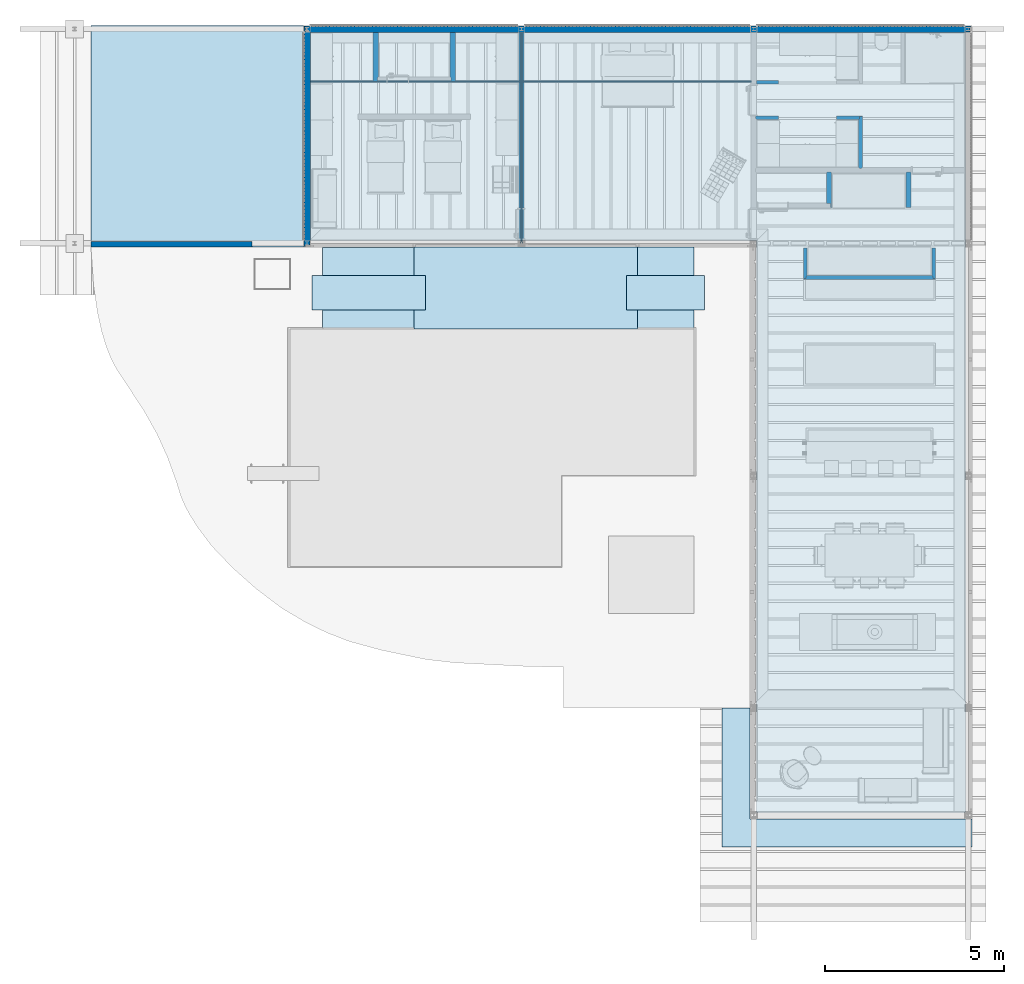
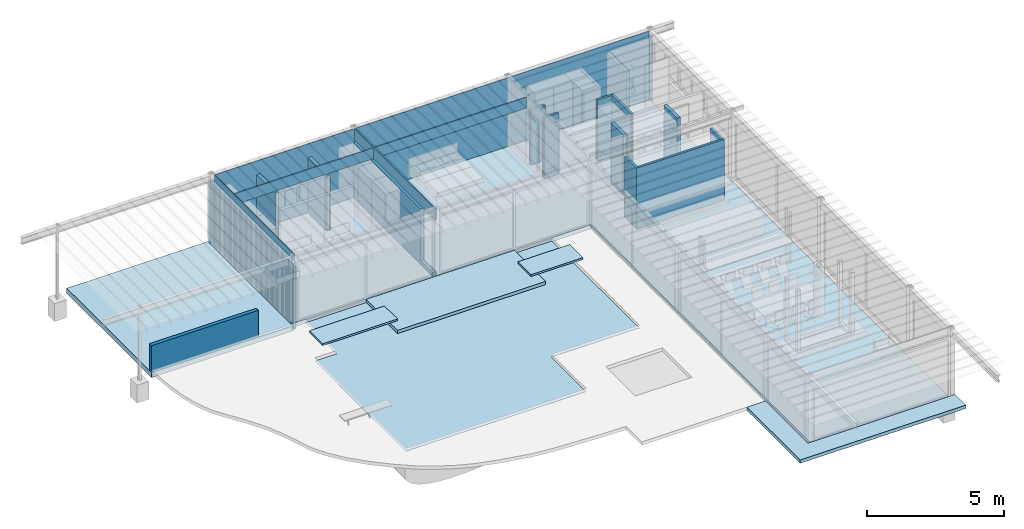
# One storey, part 13 of 28: 18 walls, 7 slabs.
"""IFC4X3_ADD2 building model written with IfcOpenShell, lengths in metres."""

from ifc_helpers import new_model, si_unit, direction, frame, frame_2d, origin_with_axes, origin_2d_with_axis, place, context, subcontext, project, spatial, polyline, rectangle, outline, extrude, source, transform, mapped, material, type_object, type_shapes, element, save


model = new_model("IFC4X3_ADD2")

# Units and contexts
model_context = context("Model", 3, precision=1e-05, world=origin_with_axes(), true_north=direction((0.0, 1.0)))
body_context = subcontext(model_context, "Body", "Model", "MODEL_VIEW")
ifc_project = project(units=[si_unit("LENGTHUNIT", "METRE"), si_unit("AREAUNIT", "SQUARE_METRE"), si_unit("VOLUMEUNIT", "CUBIC_METRE"), si_unit("PLANEANGLEUNIT", "RADIAN"), si_unit("TIMEUNIT", "SECOND"), si_unit("MASSUNIT", "GRAM")], contexts=[model_context])

# Site, building, storey
site_placement = place(None, origin_with_axes())
site = spatial("IfcSite", under=ifc_project, at=site_placement, Name="Site", CompositionType="ELEMENT")
building_placement = place(site_placement, origin_with_axes())
building = spatial("IfcBuilding", under=site, at=building_placement, Name="Default Building")
storey_placement = place(building_placement, frame((0.0, 0.0, -0.08), z_axis=(0.0, 0.0, 1.0), x_axis=(1.0, 0.0, 0.0)))
storey = spatial("IfcBuildingStorey", under=building, at=storey_placement, Name="Gruendung", Elevation=-0.08)

# Slabs
ifc_material_1 = material(Name="Default")
slab_type_1 = type_object("IfcSlabType", Name="Default 0.01", PredefinedType="FLOOR", material=ifc_material_1)
slab_1_placement = place(storey_placement, frame((6.01383100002, 6.961993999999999, -0.09999999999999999), z_axis=(0.0, 0.0, 1.0), x_axis=(1.0, 0.0, 0.0)))
element("IfcSlab", 1, at=slab_1_placement, inside=storey, type_object=slab_type_1, Name="IfcSlab", context=body_context, shape_type="SweptSolid", body=[
    extrude(outline(polyline([(-5.511271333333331, -5.615955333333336), (-5.511271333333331, 1.029901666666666), (-4.589108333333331, 1.029901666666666), (-4.589108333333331, 3.312050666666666), (-2.015102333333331, 3.312050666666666), (-2.015102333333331, 1.029901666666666), (4.224897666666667, 1.029901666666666), (4.224897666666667, 3.322050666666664), (5.799897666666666, 3.322050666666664), (5.799897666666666, -3.077949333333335), (2.09068666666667, -3.077949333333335), (2.09068666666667, -5.615955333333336), (-5.511271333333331, -5.615955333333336)])), frame((5.511271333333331, 5.615955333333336, 0.0), z_axis=(0.0, 0.0, 1.0), x_axis=(1.0, 0.0, 0.0)), (0.0, 0.0, 1.0), 0.01),
])
ifc_material_2 = material(Name="Beton")
slab_type_2 = type_object("IfcSlabType", Name="Beton 0.2", PredefinedType="FLOOR", material=ifc_material_2)
slab_2_placement = place(storey_placement, frame((6.579999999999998, 21.92, -0.28), z_axis=(0.0, 0.0, 1.0), x_axis=(0.0, -1.0, 0.0)))
element("IfcSlab", 2, at=slab_2_placement, inside=storey, type_object=slab_type_2, Name="Bodenaufbau Erdgeschoss CH 36 cm", ObjectType="Bodenaufbau Erdgeschoss CH 36 cm", PredefinedType="NOTDEFINED", context=body_context, shape_type="SweptSolid", body=[
    extrude(outline(polyline([(12.61333333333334, 8.060000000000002), (12.61333333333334, 2.220000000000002), (-3.386666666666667, 2.220000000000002), (-3.386666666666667, -10.28), (-9.226666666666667, -10.28), (-9.226666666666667, 8.060000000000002), (12.61333333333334, 8.060000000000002)])), frame((9.226666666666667, 10.28, 0.0), z_axis=(0.0, 0.0, 1.0), x_axis=(1.0, 0.0, 0.0)), (0.0, 0.0, 1.0), 0.1999999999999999),
])
ifc_material_3 = material(Name="Concrete")
slab_type_3 = type_object("IfcSlabType", Name="Slab LayerSet", PredefinedType="FLOOR", material=ifc_material_3)
slab_3_placement = place(storey_placement, frame((0.4532720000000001, 22.1, -0.28), z_axis=(0.0, 0.0, 1.0), x_axis=(0.0, -1.0, 0.0)))
element("IfcSlab", 3, at=slab_3_placement, inside=storey, type_object=slab_type_3, Name="Floor", ObjectType="Unstyled Roof Face", PredefinedType="FLOOR", context=body_context, shape_type="SweptSolid", body=[
    extrude(rectangle(XDim=6.200000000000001, YDim=5.946728, at=frame_2d((0.0, 0.0), x_axis=(-1.0, 0.0))), frame((3.100000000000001, 2.973364, 0.0), z_axis=(0.0, 0.0, 1.0), x_axis=(1.0, 0.0, 0.0)), (0.0, 0.0, 1.0), 0.23),
])
slab_type_4 = type_object("IfcSlabType", Name="Slab LayerSet_3", PredefinedType="FLOOR", material=ifc_material_3)
slab_4_placement = place(storey_placement, frame((6.645994, 14.14, 0.05), z_axis=(0.0, 0.0, 1.0), x_axis=(1.0, 0.0, 0.0)))
element("IfcSlab", 4, at=slab_4_placement, inside=storey, type_object=slab_type_4, Name="Floor", ObjectType="Unstyled Roof Face", PredefinedType="FLOOR", context=body_context, shape_type="SweptSolid", body=[
    extrude(rectangle(XDim=3.164000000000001, YDim=0.9599999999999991, at=origin_2d_with_axis()), frame((1.582000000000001, 0.4800000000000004, 0.0), z_axis=(0.0, 0.0, 1.0), x_axis=(1.0, 0.0, 0.0)), (0.0, 0.0, 1.0), 0.08),
])
slab_5_placement = place(storey_placement, frame((15.44, 14.14, 0.05), z_axis=(0.0, 0.0, 1.0), x_axis=(1.0, 0.0, 0.0)))
element("IfcSlab", 5, at=slab_5_placement, inside=storey, type_object=slab_type_4, Name="Floor", ObjectType="Unstyled Roof Face", PredefinedType="FLOOR", context=body_context, shape_type="SweptSolid", body=[
    extrude(rectangle(XDim=2.185, YDim=0.9599999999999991, at=origin_2d_with_axis()), frame((1.092499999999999, 0.4800000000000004, 0.0), z_axis=(0.0, 0.0, 1.0), x_axis=(1.0, 0.0, 0.0)), (0.0, 0.0, 1.0), 0.08),
])
slab_type_5 = type_object("IfcSlabType", Name="Slab LayerSet_2", PredefinedType="FLOOR", material=ifc_material_3)
slab_6_placement = place(storey_placement, frame((9.5, 13.607851, -0.09999999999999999), z_axis=(0.0, 0.0, 1.0), x_axis=(1.0, 0.0, 0.0)))
element("IfcSlab", 6, at=slab_6_placement, inside=storey, type_object=slab_type_5, Name="Floor", ObjectType="Unstyled Roof Face", PredefinedType="FLOOR", context=body_context, shape_type="SweptSolid", body=[
    extrude(rectangle(XDim=6.25, YDim=2.292149, at=origin_2d_with_axis()), frame((3.125, 1.146074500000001, 0.0), z_axis=(0.0, 0.0, 1.0), x_axis=(1.0, 0.0, 0.0)), (0.0, 0.0, 1.0), 0.15),
])
slab_7_placement = place(storey_placement, frame((18.1125, -0.8875000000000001, -0.09999999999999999), z_axis=(0.0, 0.0, 1.0), x_axis=(1.0, 0.0, 0.0)))
element("IfcSlab", 7, at=slab_7_placement, inside=storey, type_object=slab_type_5, Name="Floor", ObjectType="Unstyled Roof Face", PredefinedType="FLOOR", context=body_context, shape_type="SweptSolid", body=[
    extrude(outline(polyline([(-2.591666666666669, 2.329166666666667), (-1.804166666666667, 2.329166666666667), (-1.804166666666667, -0.7708333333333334), (4.395833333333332, -0.7708333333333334), (4.395833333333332, -1.558333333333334), (-2.591666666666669, -1.558333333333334), (-2.591666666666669, 2.329166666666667)])), frame((2.591666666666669, 1.558333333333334, 0.0), z_axis=(0.0, 0.0, 1.0), x_axis=(1.0, 0.0, 0.0)), (0.0, 0.0, 1.0), 0.15),
])

# Walls
wall_type_1 = type_object("IfcWallType", Name="Gipsständerwand 15 cm", PredefinedType="NOTDEFINED")
shared_shape_1 = source(origin_with_axes(), body_context, "Body", "SweptSolid", [
    extrude(outline(polyline([(0.4872500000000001, 0.0625), (-0.4747499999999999, 0.0625), (-0.4747499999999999, -0.0625), (0.4872500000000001, -0.0625), (0.47475, -0.075), (-0.48725, -0.075), (-0.48725, 0.075), (0.47475, 0.075), (0.4872500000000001, 0.0625)])), frame((0.48725, 0.0, 0.0), z_axis=(0.0, 0.0, 1.0), x_axis=(1.0, 0.0, 0.0)), (0.0, 0.0, 1.0), 2.7),
    extrude(outline(polyline([(0.47475, 0.0625), (0.48725, 0.05), (-0.47475, 0.05), (-0.47475, -0.05), (0.48725, -0.05), (0.47475, -0.0625), (-0.48725, -0.0625), (-0.48725, 0.0625), (0.47475, 0.0625)])), frame((0.49975, 0.0, 0.0), z_axis=(0.0, 0.0, 1.0), x_axis=(1.0, 0.0, 0.0)), (0.0, 0.0, 1.0), 2.7),
    extrude(rectangle(XDim=0.962, YDim=0.1, at=origin_2d_with_axis()), frame((0.506, 0.0, 0.0), z_axis=(0.0, 0.0, 1.0), x_axis=(1.0, 0.0, 0.0)), (0.0, 0.0, 1.0), 2.7),
])
type_shapes(wall_type_1, [shared_shape_1])
wall_1_placement = place(storey_placement, frame((23.33, 17.00966666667, -0.08), z_axis=(0.0, 0.0, 1.0), x_axis=(0.0, 1.0, 0.0)))
element("IfcWall", 8, at=wall_1_placement, inside=storey, type_object=wall_type_1, Name="Gipsständerwand 15 cm", ObjectType="Gipsständerwand 15 cm", context=body_context, shape_type="MappedRepresentation", body=[
    mapped(shared_shape_1, transform((0.0, 0.0, 0.0))),
])
wall_type_2 = type_object("IfcWallType", Name="W-CASE Trapez1", PredefinedType="NOTDEFINED")
shared_shape_2 = source(origin_with_axes(), body_context, "Body", "SweptSolid", [
    extrude(outline(polyline([(-3.072, -0.01599999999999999), (-3.072, 0.016), (3.088, 0.016), (3.056, -0.01599999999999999), (-3.072, -0.01599999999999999)])), frame((2.992, 0.074, -0.2), z_axis=(0.0, 0.0, 1.0), x_axis=(1.0, 0.0, 0.0)), (0.0, 0.0, 1.0), 2.96),
    extrude(rectangle(XDim=5.968, YDim=0.128, at=origin_2d_with_axis()), frame((2.936, -0.006000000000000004, -0.2), z_axis=(0.0, 0.0, 1.0), x_axis=(1.0, 0.0, 0.0)), (0.0, 0.0, 1.0), 2.96),
    extrude(outline(polyline([(2.9, -0.009999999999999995), (-2.9, -0.009999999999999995), (-2.92, 0.009999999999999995), (2.92, 0.009999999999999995), (2.9, -0.009999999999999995)])), frame((3.0, -0.08, 0.0), z_axis=(0.0, 0.0, 1.0), x_axis=(1.0, 0.0, 0.0)), (0.0, 0.0, 1.0), 3.06),
])
type_shapes(wall_type_2, [shared_shape_2])
wall_2_placement = place(storey_placement, frame((6.51, 16.0, -0.08), z_axis=(0.0, 0.0, 1.0), x_axis=(0.0, 1.0, 0.0)))
element("IfcWall", 9, at=wall_2_placement, inside=storey, type_object=wall_type_2, Name="W-CASE Trapez", ObjectType="W-CASE Trapez", context=body_context, shape_type="MappedRepresentation", body=[
    mapped(shared_shape_2, transform((0.0, 0.0, 0.0))),
])
wall_type_3 = type_object("IfcWallType", Name="W-CASE Trapez3", PredefinedType="NOTDEFINED")
shared_shape_3 = source(origin_with_axes(), body_context, "Body", "SweptSolid", [
    extrude(outline(polyline([(-9.33, 0.016), (9.33, 0.016), (9.298, -0.01599999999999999), (-9.298, -0.01599999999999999), (-9.33, 0.016)])), frame((9.24, 0.074, -0.2), z_axis=(0.0, 0.0, 1.0), x_axis=(1.0, 0.0, 0.0)), (0.0, 0.0, 1.0), 2.96),
    extrude(rectangle(XDim=18.596, YDim=0.128, at=origin_2d_with_axis()), frame((9.24, -0.006000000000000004, -0.2), z_axis=(0.0, 0.0, 1.0), x_axis=(1.0, 0.0, 0.0)), (0.0, 0.0, 1.0), 2.96),
    extrude(outline(polyline([(9.15, -0.009999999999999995), (-9.15, -0.009999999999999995), (-9.17, 0.009999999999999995), (9.17, 0.009999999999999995), (9.15, -0.009999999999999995)])), frame((9.24, -0.08, 0.0), z_axis=(0.0, 0.0, 1.0), x_axis=(1.0, 0.0, 0.0)), (0.0, 0.0, 1.0), 3.06),
])
type_shapes(wall_type_3, [shared_shape_3])
wall_3_placement = place(storey_placement, frame((6.51, 21.99, -0.08), z_axis=(0.0, 0.0, 1.0), x_axis=(1.0, 0.0, 0.0)))
element("IfcWall", 10, at=wall_3_placement, inside=storey, type_object=wall_type_3, Name="W-CASE Trapez", ObjectType="W-CASE Trapez", context=body_context, shape_type="MappedRepresentation", body=[
    mapped(shared_shape_3, transform((0.0, 0.0, 0.0))),
])
wall_type_4 = type_object("IfcWallType", Name="Gipsständerwand 15 cm1", PredefinedType="NOTDEFINED")
shared_shape_4 = source(origin_with_axes(), body_context, "Body", "SweptSolid", [
    extrude(outline(polyline([(2.228333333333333, 0.7133333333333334), (2.228333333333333, 0.8733333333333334), (-3.571666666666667, 0.8733333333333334), (-3.571666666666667, -1.586666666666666), (1.343333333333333, -1.586666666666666), (1.343333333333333, 0.7133333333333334), (2.228333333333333, 0.7133333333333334)])), frame((3.571666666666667, 0.0625, 0.8733333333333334), z_axis=(0.0, 1.0, 0.0), x_axis=(1.0, 0.0, 0.0)), (0.0, 0.0, 1.0), 0.0125),
    extrude(outline(polyline([(2.228333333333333, 0.7133333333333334), (2.228333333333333, 0.8733333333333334), (-3.571666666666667, 0.8733333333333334), (-3.571666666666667, -1.586666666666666), (1.343333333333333, -1.586666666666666), (1.343333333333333, 0.7133333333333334), (2.228333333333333, 0.7133333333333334)])), frame((3.571666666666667, 0.05, 0.8733333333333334), z_axis=(0.0, 1.0, 0.0), x_axis=(1.0, 0.0, 0.0)), (0.0, 0.0, 1.0), 0.0125),
    extrude(outline(polyline([(2.228333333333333, 0.7133333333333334), (2.228333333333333, 0.8733333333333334), (-3.571666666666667, 0.8733333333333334), (-3.571666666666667, -1.586666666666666), (1.343333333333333, -1.586666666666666), (1.343333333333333, 0.7133333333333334), (2.228333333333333, 0.7133333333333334)])), frame((3.571666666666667, -0.05, 0.8733333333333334), z_axis=(0.0, 1.0, 0.0), x_axis=(1.0, 0.0, 0.0)), (0.0, 0.0, 1.0), 0.09999999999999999),
    extrude(outline(polyline([(2.228333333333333, 0.7133333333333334), (2.228333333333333, 0.8733333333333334), (-3.571666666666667, 0.8733333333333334), (-3.571666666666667, -1.586666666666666), (1.343333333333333, -1.586666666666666), (1.343333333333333, 0.7133333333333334), (2.228333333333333, 0.7133333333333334)])), frame((3.571666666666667, -0.0625, 0.8733333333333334), z_axis=(0.0, 1.0, 0.0), x_axis=(1.0, 0.0, 0.0)), (0.0, 0.0, 1.0), 0.0125),
    extrude(outline(polyline([(2.228333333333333, 0.7133333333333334), (2.228333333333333, 0.8733333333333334), (-3.571666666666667, 0.8733333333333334), (-3.571666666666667, -1.586666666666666), (1.343333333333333, -1.586666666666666), (1.343333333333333, 0.7133333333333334), (2.228333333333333, 0.7133333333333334)])), frame((3.571666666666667, -0.075, 0.8733333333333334), z_axis=(0.0, 1.0, 0.0), x_axis=(1.0, 0.0, 0.0)), (0.0, 0.0, 1.0), 0.0125),
])
type_shapes(wall_type_4, [shared_shape_4])
wall_4_placement = place(storey_placement, frame((12.5, 21.9, -0.08), z_axis=(0.0, 0.0, 1.0), x_axis=(0.0, -1.0, 0.0)))
element("IfcWall", 11, at=wall_4_placement, inside=storey, type_object=wall_type_4, Name="Gipsständerwand 15 cm", ObjectType="Gipsständerwand 15 cm", context=body_context, shape_type="MappedRepresentation", body=[
    mapped(shared_shape_4, transform((0.0, 0.0, 0.0))),
])
wall_type_5 = type_object("IfcWallType", Name="Gipsständerwand 15 cm7", PredefinedType="NOTDEFINED")
shared_shape_5 = source(origin_with_axes(), body_context, "Body", "SweptSolid", [
    extrude(outline(polyline([(0.4995835, 0.006249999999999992), (0.4870835, -0.006250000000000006), (-0.4995835, -0.006250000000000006), (-0.4870834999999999, 0.006249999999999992), (0.4995835, 0.006249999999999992)])), frame((0.5620835, 0.06875, 0.0), z_axis=(0.0, 0.0, 1.0), x_axis=(1.0, 0.0, 0.0)), (0.0, 0.0, 1.0), 2.7),
    extrude(outline(polyline([(0.4995835, 0.006249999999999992), (0.4870835, -0.006250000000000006), (-0.4995835, -0.006250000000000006), (-0.4870834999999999, 0.006249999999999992), (0.4995835, 0.006249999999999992)])), frame((0.5495835, 0.05625, 0.0), z_axis=(0.0, 0.0, 1.0), x_axis=(1.0, 0.0, 0.0)), (0.0, 0.0, 1.0), 2.7),
    extrude(rectangle(XDim=0.886667, YDim=0.099999, at=origin_2d_with_axis()), frame((0.4933335, 4.999999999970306e-07, 0.0), z_axis=(0.0, 0.0, 1.0), x_axis=(1.0, 0.0, 0.0)), (0.0, 0.0, 1.0), 2.7),
    extrude(outline(polyline([(0.4433335, 0.006250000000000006), (0.4308335, -0.006249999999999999), (-0.4308335, -0.006249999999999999), (-0.4433335, 0.006250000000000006), (0.4433335, 0.006250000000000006)])), frame((0.4933335, -0.05624900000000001, 0.0), z_axis=(0.0, 0.0, 1.0), x_axis=(1.0, 0.0, 0.0)), (0.0, 0.0, 1.0), 2.7),
    extrude(outline(polyline([(0.4308335, 0.006249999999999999), (0.4183335, -0.006249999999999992), (-0.4183335, -0.006249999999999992), (-0.4308335, 0.006249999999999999), (0.4308335, 0.006249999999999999)])), frame((0.4933335, -0.068749, 0.0), z_axis=(0.0, 0.0, 1.0), x_axis=(1.0, 0.0, 0.0)), (0.0, 0.0, 1.0), 2.7),
])
type_shapes(wall_type_5, [shared_shape_5])
wall_5_placement = place(storey_placement, frame((21.1025, 18.04666666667, -0.08), z_axis=(0.0, 0.0, 1.0), x_axis=(0.0, -1.0, 0.0)))
element("IfcWall", 12, at=wall_5_placement, inside=storey, type_object=wall_type_5, Name="Gipsständerwand 15 cm", ObjectType="Gipsständerwand 15 cm", context=body_context, shape_type="MappedRepresentation", body=[
    mapped(shared_shape_5, transform((0.0, 0.0, 0.0))),
])
wall_type_6 = type_object("IfcWallType", Name="Gipsständerwand 10 cm1", PredefinedType="NOTDEFINED")
shared_shape_6 = source(origin_with_axes(), body_context, "Body", "SweptSolid", [
    extrude(outline(polyline([(0.7170829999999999, 0.006250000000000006), (0.7295830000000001, -0.006249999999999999), (-0.717083, -0.006249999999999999), (-0.729583, 0.006250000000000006), (0.7170829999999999, 0.006250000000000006)])), frame((0.679584, 0.04375, 0.0), z_axis=(0.0, 0.0, 1.0), x_axis=(1.0, 0.0, 0.0)), (0.0, 0.0, 1.0), 2.7),
    extrude(outline(polyline([(0.7170829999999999, 0.006250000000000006), (0.7295830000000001, -0.006249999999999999), (-0.717083, -0.006249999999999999), (-0.729583, 0.006250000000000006), (0.7170829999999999, 0.006250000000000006)])), frame((0.692084, 0.03125, 0.0), z_axis=(0.0, 0.0, 1.0), x_axis=(1.0, 0.0, 0.0)), (0.0, 0.0, 1.0), 2.7),
    extrude(rectangle(XDim=1.446666, YDim=0.049999, at=origin_2d_with_axis()), frame((0.6983339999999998, 4.999999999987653e-07, 0.0), z_axis=(0.0, 0.0, 1.0), x_axis=(1.0, 0.0, 0.0)), (0.0, 0.0, 1.0), 2.7),
    extrude(outline(polyline([(0.6983334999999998, 0.006249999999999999), (0.6858335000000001, -0.006250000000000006), (-0.6858335, -0.006250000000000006), (-0.6983334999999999, 0.006249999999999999), (0.6983334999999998, 0.006249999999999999)])), frame((0.7233335, -0.031249, 0.0), z_axis=(0.0, 0.0, 1.0), x_axis=(1.0, 0.0, 0.0)), (0.0, 0.0, 1.0), 2.7),
    extrude(outline(polyline([(0.6858335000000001, 0.006249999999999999), (0.6733334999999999, -0.006249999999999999), (-0.6733335, -0.006249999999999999), (-0.6858335, 0.006249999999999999), (0.6858335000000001, 0.006249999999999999)])), frame((0.7233335, -0.043749, 0.0), z_axis=(0.0, 0.0, 1.0), x_axis=(1.0, 0.0, 0.0)), (0.0, 0.0, 1.0), 2.7),
])
type_shapes(wall_type_6, [shared_shape_6])
wall_6_placement = place(storey_placement, frame((21.98556372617, 19.51833333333, -0.08), z_axis=(0.0, 0.0, 1.0), x_axis=(0.0, -1.0, 0.0)))
element("IfcWall", 13, at=wall_6_placement, inside=storey, type_object=wall_type_6, Name="Gipsständerwand 10 cm", ObjectType="Gipsständerwand 10 cm", context=body_context, shape_type="MappedRepresentation", body=[
    mapped(shared_shape_6, transform((0.0, 0.0, 0.0))),
])
wall_type_7 = type_object("IfcWallType", Name="Gipsständerwand 10 cm3", PredefinedType="NOTDEFINED")
shared_shape_7 = source(origin_with_axes(), body_context, "Body", "SweptSolid", [
    extrude(outline(polyline([(-0.311125, -0.04375), (-0.323625, -0.03125), (0.304875, -0.03125), (0.304875, 0.03125), (-0.311125, 0.03125), (-0.298625, 0.04375), (0.3173750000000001, 0.04375), (0.3173750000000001, -0.04375), (-0.311125, -0.04375)])), frame((0.373625, 0.006250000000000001, 0.0), z_axis=(0.0, 0.0, 1.0), x_axis=(1.0, 0.0, 0.0)), (0.0, 0.0, 1.0), 2.7),
    extrude(outline(polyline([(0.311125, -0.006249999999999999), (-0.317375, -0.006249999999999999), (-0.304875, 0.006249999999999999), (0.311125, 0.006249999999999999), (0.311125, -0.006249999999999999)])), frame((0.367375, 0.03125, 0.0), z_axis=(0.0, 0.0, 1.0), x_axis=(1.0, 0.0, 0.0)), (0.0, 0.0, 1.0), 2.7),
    extrude(rectangle(XDim=0.616, YDim=0.05, at=origin_2d_with_axis()), frame((0.358, 0.0, 0.0), z_axis=(0.0, 0.0, 1.0), x_axis=(1.0, 0.0, 0.0)), (0.0, 0.0, 1.0), 2.7),
    extrude(rectangle(XDim=0.0625, YDim=0.01249999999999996, at=frame_2d((0.0, 0.0), x_axis=(0.0, 1.0))), frame((0.67225, -0.006249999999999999, 0.0), z_axis=(0.0, 0.0, 1.0), x_axis=(1.0, 0.0, 0.0)), (0.0, 0.0, 1.0), 2.7),
    extrude(outline(polyline([(0.311125, -0.006249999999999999), (-0.304875, -0.006249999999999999), (-0.317375, 0.006250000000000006), (0.311125, 0.006249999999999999), (0.311125, -0.006249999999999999)])), frame((0.379875, -0.04375, 0.0), z_axis=(0.0, 0.0, 1.0), x_axis=(1.0, 0.0, 0.0)), (0.0, 0.0, 1.0), 2.7),
])
type_shapes(wall_type_7, [shared_shape_7])
wall_7_placement = place(storey_placement, frame((19.0, 19.51833333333, -0.08), z_axis=(0.0, 0.0, 1.0), x_axis=(1.0, 0.0, 0.0)))
element("IfcWall", 14, at=wall_7_placement, inside=storey, type_object=wall_type_7, Name="Gipsständerwand 10 cm", ObjectType="Gipsständerwand 10 cm", context=body_context, shape_type="MappedRepresentation", body=[
    mapped(shared_shape_7, transform((0.0, 0.0, 0.0))),
])
wall_type_8 = type_object("IfcWallType", Name="Gipsständerwand 10 cm5", PredefinedType="NOTDEFINED")
shared_shape_8 = source(origin_with_axes(), body_context, "Body", "SweptSolid", [
    extrude(outline(polyline([(-0.304875, -0.05), (-0.304875, -0.0375), (0.298625, -0.0375), (0.298625, 0.0375), (-0.304875, 0.0375), (-0.304875, 0.05), (0.3111250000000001, 0.05), (0.3111250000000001, -0.05), (-0.304875, -0.05)])), frame((0.379875, 0.0, 0.0), z_axis=(0.0, 0.0, 1.0), x_axis=(1.0, 0.0, 0.0)), (0.0, 0.0, 1.0), 2.46),
    extrude(outline(polyline([(-0.298625, -0.025), (0.292375, -0.025), (0.292375, 0.025), (-0.298625, 0.025), (-0.298625, 0.0375), (0.304875, 0.0375), (0.304875, -0.0375), (-0.298625, -0.0375), (-0.298625, -0.025)])), frame((0.373625, 0.0, 0.0), z_axis=(0.0, 0.0, 1.0), x_axis=(1.0, 0.0, 0.0)), (0.0, 0.0, 1.0), 2.46),
    extrude(rectangle(XDim=0.5910000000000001, YDim=0.05, at=origin_2d_with_axis()), frame((0.3705, 0.0, 0.0), z_axis=(0.0, 0.0, 1.0), x_axis=(1.0, 0.0, 0.0)), (0.0, 0.0, 1.0), 2.46),
])
type_shapes(wall_type_8, [shared_shape_8])
wall_8_placement = place(storey_placement, frame((19.0, 20.50333333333, -0.08), z_axis=(0.0, 0.0, 1.0), x_axis=(1.0, 0.0, 0.0)))
element("IfcWall", 15, at=wall_8_placement, inside=storey, type_object=wall_type_8, Name="Gipsständerwand 10 cm", ObjectType="Gipsständerwand 10 cm", context=body_context, shape_type="MappedRepresentation", body=[
    mapped(shared_shape_8, transform((0.0, 0.0, 0.0))),
])
wall_type_9 = type_object("IfcWallType", Name="Gipsständerwand 10 cm13", PredefinedType="NOTDEFINED")
shared_shape_9 = source(origin_with_axes(), body_context, "Body", "SweptSolid", [
    extrude(outline(polyline([(-0.460875, -0.05), (-0.448375, -0.0375), (0.404625, -0.0375), (0.404625, 0.0375), (-0.373375, 0.0375), (-0.360875, 0.05), (0.4171250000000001, 0.05), (0.4171250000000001, -0.05), (-0.460875, -0.05)])), frame((0.410875, 0.0, 0.0), z_axis=(0.0, 0.0, 1.0), x_axis=(1.0, 0.0, 0.0)), (0.0, 0.0, 1.0), 2.7),
    extrude(outline(polyline([(-0.429625, -0.025), (0.398375, -0.025), (0.398375, 0.025), (-0.379625, 0.025), (-0.367125, 0.0375), (0.410875, 0.0375), (0.410875, -0.0375), (-0.442125, -0.0375), (-0.429625, -0.025)])), frame((0.404625, 0.0, 0.0), z_axis=(0.0, 0.0, 1.0), x_axis=(1.0, 0.0, 0.0)), (0.0, 0.0, 1.0), 2.7),
    extrude(rectangle(XDim=0.8280000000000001, YDim=0.05, at=origin_2d_with_axis()), frame((0.389, 0.0, 0.0), z_axis=(0.0, 0.0, 1.0), x_axis=(1.0, 0.0, 0.0)), (0.0, 0.0, 1.0), 2.7),
])
type_shapes(wall_type_9, [shared_shape_9])
for number, where, z_axis, x_axis, name in (
    (16, (20.44, 15.04657311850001, 2.620000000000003), (0.0, 0.0, -1.0), (0.0, 1.0, 0.0), "Gipsständerwand 10 cm"),
    (17, (24.03490839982, 15.0465731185, -0.08), (0.0, 0.0, 1.0), (0.0, 1.0, 0.0), "Gipsständerwand 10 cm"),
):
    element("IfcWall", number, at=place(storey_placement, frame(where, z_axis=z_axis, x_axis=x_axis)), inside=storey, type_object=wall_type_9, Name=name, ObjectType="Gipsständerwand 10 cm", context=body_context, shape_type="MappedRepresentation", body=[
        mapped(shared_shape_9, transform((0.0, 0.0, 0.0))),
    ])
wall_type_10 = type_object("IfcWallType", Name="Gipsständerwand 10 cm11", PredefinedType="NOTDEFINED")
shared_shape_10 = source(origin_with_axes(), body_context, "Body", "SweptSolid", [
    extrude(outline(polyline([(1.747454, 0.006250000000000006), (1.759954, -0.006249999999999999), (-1.759954, -0.006249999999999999), (-1.747454, 0.006250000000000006), (1.747454, 0.006250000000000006)])), frame((1.797454, 0.04375, 0.0), z_axis=(0.0, 0.0, 1.0), x_axis=(1.0, 0.0, 0.0)), (0.0, 0.0, 1.0), 2.7),
    extrude(outline(polyline([(1.759954, 0.006249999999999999), (1.772454, -0.006249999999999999), (-1.772454, -0.006249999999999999), (-1.759954, 0.006249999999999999), (1.759954, 0.006249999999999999)])), frame((1.797454, 0.03125, 0.0), z_axis=(0.0, 0.0, 1.0), x_axis=(1.0, 0.0, 0.0)), (0.0, 0.0, 1.0), 2.7),
    extrude(rectangle(XDim=3.544908, YDim=0.049999, at=origin_2d_with_axis()), frame((1.797454, 4.999999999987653e-07, 0.0), z_axis=(0.0, 0.0, 1.0), x_axis=(1.0, 0.0, 0.0)), (0.0, 0.0, 1.0), 2.7),
    extrude(outline(polyline([(-1.8224535, 0.006250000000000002), (1.8224535, 0.006250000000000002), (1.8349535, -0.006250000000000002), (-1.8349535, -0.006250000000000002), (-1.8224535, 0.006250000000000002)])), frame((1.7974545, -0.031249, 0.0), z_axis=(0.0, 0.0, 1.0), x_axis=(1.0, 0.0, 0.0)), (0.0, 0.0, 1.0), 2.7),
    extrude(outline(polyline([(1.8349535, 0.006249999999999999), (1.8474535, -0.006249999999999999), (-1.8474535, -0.006249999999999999), (-1.8349535, 0.006249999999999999), (1.8349535, 0.006249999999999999)])), frame((1.7974545, -0.043749, 0.0), z_axis=(0.0, 0.0, 1.0), x_axis=(1.0, 0.0, 0.0)), (0.0, 0.0, 1.0), 2.7),
])
type_shapes(wall_type_10, [shared_shape_10])
wall_9_placement = place(storey_placement, frame((20.44, 15.0465731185, -0.08), z_axis=(0.0, 0.0, 1.0), x_axis=(1.0, 0.0, 0.0)))
element("IfcWall", 18, at=wall_9_placement, inside=storey, type_object=wall_type_10, Name="Gipsständerwand 10 cm", ObjectType="Gipsständerwand 10 cm", context=body_context, shape_type="MappedRepresentation", body=[
    mapped(shared_shape_10, transform((0.0, 0.0, 0.0))),
])
wall_type_11 = type_object("IfcWallType", Name="Gipsständerwand 10 cm17", PredefinedType="NOTDEFINED")
shared_shape_11 = source(origin_with_axes(), body_context, "Body", "SweptSolid", [
    extrude(outline(polyline([(0.380375, 0.05), (0.367875, 0.0375), (-0.324125, 0.0375), (-0.324125, -0.0375), (0.2928750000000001, -0.0375), (0.280375, -0.05), (-0.336625, -0.05), (-0.336625, 0.05), (0.380375, 0.05)])), frame((0.336625, 0.0, 0.0), z_axis=(0.0, 0.0, 1.0), x_axis=(1.0, 0.0, 0.0)), (0.0, 0.0, 1.0), 2.7),
    extrude(outline(polyline([(0.361625, 0.0375), (0.349125, 0.025), (-0.3178750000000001, 0.025), (-0.3178750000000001, -0.025), (0.299125, -0.025), (0.286625, -0.0375), (-0.3303750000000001, -0.0375), (-0.3303750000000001, 0.0375), (0.361625, 0.0375)])), frame((0.3428750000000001, 0.0, 0.0), z_axis=(0.0, 0.0, 1.0), x_axis=(1.0, 0.0, 0.0)), (0.0, 0.0, 1.0), 2.7),
    extrude(rectangle(XDim=0.617, YDim=0.05, at=origin_2d_with_axis()), frame((0.3335, 0.0, 0.0), z_axis=(0.0, 0.0, 1.0), x_axis=(1.0, 0.0, 0.0)), (0.0, 0.0, 1.0), 2.7),
])
type_shapes(wall_type_11, [shared_shape_11])
wall_10_placement = place(storey_placement, frame((21.31856372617, 19.51833333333, -0.08), z_axis=(0.0, 0.0, 1.0), x_axis=(1.0, 0.0, 0.0)))
element("IfcWall", 19, at=wall_10_placement, inside=storey, type_object=wall_type_11, Name="Gipsständerwand 10 cm", ObjectType="Gipsständerwand 10 cm", context=body_context, shape_type="MappedRepresentation", body=[
    mapped(shared_shape_11, transform((0.0, 0.0, 0.0))),
])
wall_type_12 = type_object("IfcWallType", Name="Gipsständerwand 15 cm9", PredefinedType="NOTDEFINED")
shared_shape_12 = source(origin_with_axes(), body_context, "Body", "SweptSolid", [
    extrude(outline(polyline([(0.616519, 0.006249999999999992), (0.6290190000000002, -0.006250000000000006), (-0.6227689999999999, -0.006250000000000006), (-0.6227689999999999, 0.006249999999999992), (0.616519, 0.006249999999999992)])), frame((0.712769, 0.06875, 0.0), z_axis=(0.0, 0.0, 1.0), x_axis=(1.0, 0.0, 0.0)), (0.0, 0.0, 1.0), 2.46),
    extrude(outline(polyline([(0.6227690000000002, 0.006249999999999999), (0.635269, -0.006249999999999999), (-0.629019, -0.006249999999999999), (-0.629019, 0.006249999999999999), (0.6227690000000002, 0.006249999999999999)])), frame((0.719019, 0.05625, 0.0), z_axis=(0.0, 0.0, 1.0), x_axis=(1.0, 0.0, 0.0)), (0.0, 0.0, 1.0), 2.46),
    extrude(rectangle(XDim=1.364288, YDim=0.099999, at=origin_2d_with_axis()), frame((0.7721439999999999, 4.999999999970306e-07, 0.0), z_axis=(0.0, 0.0, 1.0), x_axis=(1.0, 0.0, 0.0)), (0.0, 0.0, 1.0), 2.46),
    extrude(outline(polyline([(0.679019, 0.006250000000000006), (0.6915190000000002, -0.006249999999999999), (-0.6852689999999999, -0.006249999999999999), (-0.6852689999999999, 0.006250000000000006), (0.679019, 0.006250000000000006)])), frame((0.775269, -0.05624900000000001, 0.0), z_axis=(0.0, 0.0, 1.0), x_axis=(1.0, 0.0, 0.0)), (0.0, 0.0, 1.0), 2.46),
    extrude(outline(polyline([(0.6852690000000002, 0.006249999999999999), (0.697769, -0.006249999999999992), (-0.691519, -0.006249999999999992), (-0.691519, 0.006249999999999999), (0.6852690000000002, 0.006249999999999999)])), frame((0.781519, -0.068749, 0.0), z_axis=(0.0, 0.0, 1.0), x_axis=(1.0, 0.0, 0.0)), (0.0, 0.0, 1.0), 2.46),
])
type_shapes(wall_type_12, [shared_shape_12])
wall_11_placement = place(storey_placement, frame((8.425, 21.99, -0.08), z_axis=(0.0, 0.0, 1.0), x_axis=(0.0, -1.0, 0.0)))
element("IfcWall", 20, at=wall_11_placement, inside=storey, type_object=wall_type_12, Name="Gipsständerwand 15 cm", ObjectType="Gipsständerwand 15 cm", context=body_context, shape_type="MappedRepresentation", body=[
    mapped(shared_shape_12, transform((0.0, 0.0, 0.0))),
])
wall_type_13 = type_object("IfcWallType", Name="Gipsständerwand 15 cm13", PredefinedType="NOTDEFINED")
shared_shape_13 = source(origin_with_axes(), body_context, "Body", "SweptSolid", [
    extrude(outline(polyline([(0.6227690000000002, 0.006249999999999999), (0.6227689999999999, -0.006250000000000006), (-0.629019, -0.006249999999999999), (-0.616519, 0.006249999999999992), (0.6227690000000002, 0.006249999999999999)])), frame((0.691519, 0.06875, 0.0), z_axis=(0.0, 0.0, 1.0), x_axis=(1.0, 0.0, 0.0)), (0.0, 0.0, 1.0), 2.46),
    extrude(outline(polyline([(0.629019, 0.006249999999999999), (0.6290190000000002, -0.006250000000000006), (-0.6352689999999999, -0.006249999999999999), (-0.6227689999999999, 0.006249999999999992), (0.629019, 0.006249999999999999)])), frame((0.6852689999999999, 0.05625, 0.0), z_axis=(0.0, 0.0, 1.0), x_axis=(1.0, 0.0, 0.0)), (0.0, 0.0, 1.0), 2.46),
    extrude(rectangle(XDim=1.364287, YDim=0.099999, at=origin_2d_with_axis()), frame((0.6321444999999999, 4.999999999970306e-07, 0.0), z_axis=(0.0, 0.0, 1.0), x_axis=(1.0, 0.0, 0.0)), (0.0, 0.0, 1.0), 2.46),
    extrude(outline(polyline([(0.6852685, 0.006250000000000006), (0.6852685, -0.006249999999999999), (-0.6915184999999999, -0.006249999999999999), (-0.6790185, 0.006250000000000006), (0.6852685, 0.006250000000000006)])), frame((0.6290195, -0.05624900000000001, 0.0), z_axis=(0.0, 0.0, 1.0), x_axis=(1.0, 0.0, 0.0)), (0.0, 0.0, 1.0), 2.46),
    extrude(outline(polyline([(0.6915184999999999, 0.006249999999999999), (0.6915184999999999, -0.006249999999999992), (-0.6977685, -0.006249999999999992), (-0.6852685, 0.006249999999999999), (0.6915184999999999, 0.006249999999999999)])), frame((0.6227695, -0.068749, 0.0), z_axis=(0.0, 0.0, 1.0), x_axis=(1.0, 0.0, 0.0)), (0.0, 0.0, 1.0), 2.46),
])
type_shapes(wall_type_13, [shared_shape_13])
wall_12_placement = place(storey_placement, frame((10.58098209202, 20.58571163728, -0.08), z_axis=(0.0, 0.0, 1.0), x_axis=(0.0, 1.0, 0.0)))
element("IfcWall", 21, at=wall_12_placement, inside=storey, type_object=wall_type_13, Name="Gipsständerwand 15 cm", ObjectType="Gipsständerwand 15 cm", context=body_context, shape_type="MappedRepresentation", body=[
    mapped(shared_shape_13, transform((0.0, 0.0, 0.0))),
])
ifc_material_4 = material(Name="Glas")
wall_type_14 = type_object("IfcWallType", Name="Glas 0.039999", PredefinedType="STANDARD", material=ifc_material_4)
wall_13_placement = place(storey_placement, origin_with_axes())
element("IfcWall", 22, at=wall_13_placement, inside=storey, type_object=wall_type_14, Name="Glaswand", ObjectType="Glaswand", context=body_context, shape_type="SweptSolid", body=[
    extrude(rectangle(XDim=5.899999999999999, YDim=0.0399989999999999, at=frame_2d((0.0, 0.0), x_axis=(0.0, 1.0))), frame((12.4999995, 18.95, 2.48), z_axis=(0.0, 0.0, 1.0), x_axis=(1.0, 0.0, 0.0)), (0.0, 0.0, 1.0), 0.48),
])
wall_14_placement = place(storey_placement, origin_with_axes())
element("IfcWall", 23, at=wall_14_placement, inside=storey, type_object=wall_type_14, Name="Glaswand", ObjectType="Glaswand", context=body_context, shape_type="SweptSolid", body=[
    extrude(rectangle(XDim=5.9, YDim=0.03999900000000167, at=origin_2d_with_axis()), frame((9.550000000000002, 20.53071113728, 2.48), z_axis=(0.0, 0.0, 1.0), x_axis=(1.0, 0.0, 0.0)), (0.0, 0.0, 1.0), 0.48),
])
wall_15_placement = place(storey_placement, origin_with_axes())
element("IfcWall", 24, at=wall_15_placement, inside=storey, type_object=wall_type_14, Name="Glaswand", ObjectType="Glaswand", context=body_context, shape_type="SweptSolid", body=[
    extrude(rectangle(XDim=6.425000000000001, YDim=0.03999900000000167, at=origin_2d_with_axis()), frame((15.7125, 20.53071113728, 2.48), z_axis=(0.0, 0.0, 1.0), x_axis=(1.0, 0.0, 0.0)), (0.0, 0.0, 1.0), 0.48),
])
ifc_material_5 = material(Name="Aussenwand 15cm")
wall_type_15 = type_object("IfcWallType", Name="Aussenwand 15cm 0.15", PredefinedType="STANDARD", material=ifc_material_5)
wall_16_placement = place(storey_placement, origin_with_axes())
element("IfcWall", 25, at=wall_16_placement, inside=storey, type_object=wall_type_15, context=body_context, shape_type="SweptSolid", body=[
    extrude(rectangle(XDim=4.511728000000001, YDim=0.1500000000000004, at=origin_2d_with_axis()), frame((2.70913613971, 15.975, -0.05), z_axis=(0.0, 0.0, 1.0), x_axis=(1.0, 0.0, 0.0)), (0.0, 0.0, 1.0), 1.2),
])

save(model, "model.ifc")
